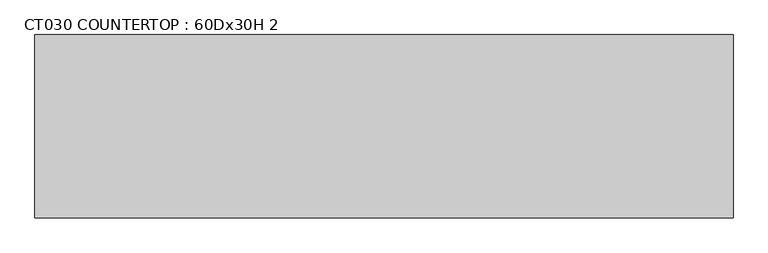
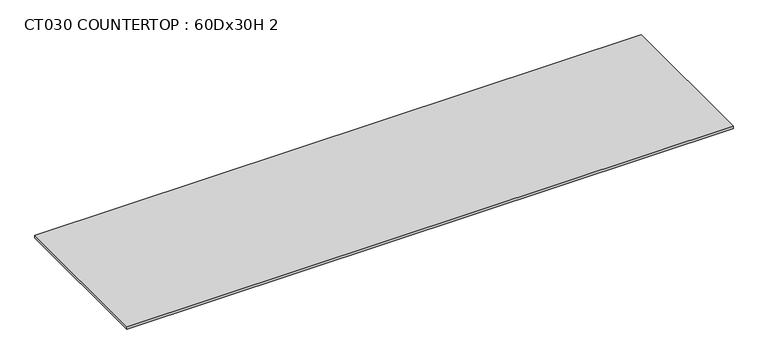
"""IFC4 building model written with IfcOpenShell, lengths in millimetres: furniture geometry, CT030 COUNTERTOP : 60Dx30H 2."""

from ifc_helpers import new_model, si_unit, frame, origin, place, context, project, spatial, polyline, outline, extrude, source, transform, mapped, element, save


def ct030_countertop_60dx30h_2_f698759c(model_context):
    return source(origin(), model_context, "Body", "SweptSolid", [
        extrude(outline(polyline([(4596.3255289, 299.4), (4596.3255289, -1224.6), (-1200.4622951, -1224.6), (-1200.4622951, 299.4), (4596.3255289, 299.4)])), frame((0.0, 0.0, 736.6), z_axis=(0.0, 0.0, 1.0), x_axis=(1.0, 0.0, 0.0)), (0.0, 0.0, 1.0), 25.4),
    ])


if __name__ == "__main__":
    model = new_model("IFC4")
    model_context = context("Model", 3, world=origin())
    ifc_project = project(units=[si_unit("LENGTHUNIT", "METRE", prefix="MILLI")], contexts=[model_context])
    site = spatial("IfcSite", under=ifc_project)
    building = spatial("IfcBuilding", under=site)
    placement = place(None, origin())
    ct030_countertop_60dx30h_2_shape = ct030_countertop_60dx30h_2_f698759c(model_context)
    element("IfcFurniture", 1, ObjectType="CT030 COUNTERTOP : 60Dx30H 2", at=placement, inside=building, context=model_context, shape_type="MappedRepresentation", body=[
        mapped(ct030_countertop_60dx30h_2_shape, transform((0.0, 0.0, 0.0), x_axis=(1.0, 0.0, 0.0), y_axis=(0.0, 1.0, 0.0), z_axis=(0.0, 0.0, 1.0))),
    ])
    save(model, "model.ifc")
